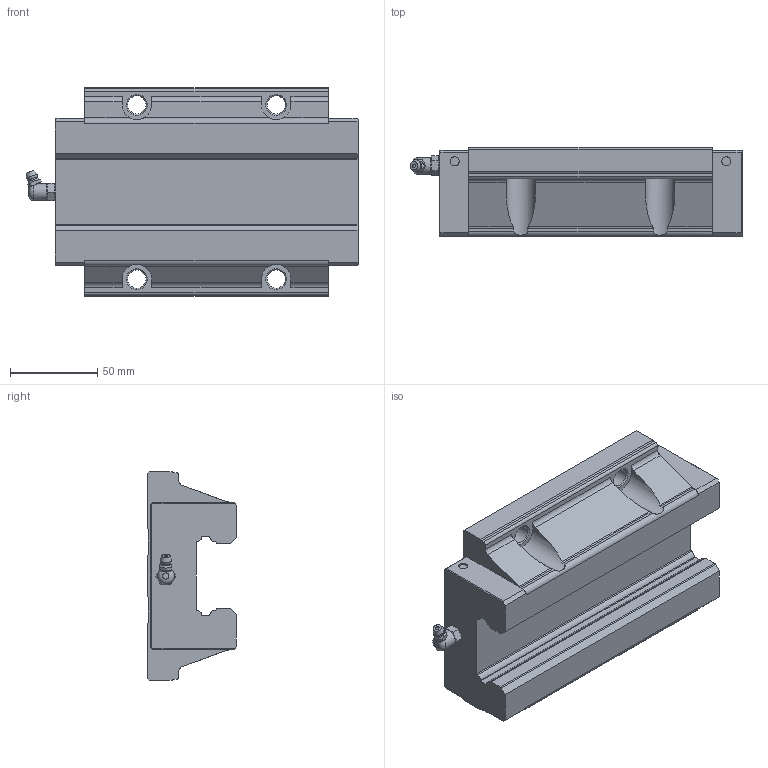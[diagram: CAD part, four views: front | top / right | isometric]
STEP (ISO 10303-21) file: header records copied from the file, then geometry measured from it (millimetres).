
FILE_DESCRIPTION(/* description */ ('STEP AP214'),/* implementation_level */ '2;1');
FILE_NAME(/* name */ 'SHS45LC1SS(GK) BLOCK(B-PT1_81)',/* time_stamp */ '2023-05-26T08:32:24+02:00',/* author */ ('License CC BY-ND 4.0'),/* organization */ ('CADENAS'),/* preprocessor_version */ 'ST-DEVELOPER v19.3',/* originating_system */ 'PARTsolutions',/* authorisation */ ' ');
FILE_SCHEMA (('AUTOMOTIVE_DESIGN {1 0 10303 214 3 1 1}'));
Length unit declared in the file: millimetre
Products named in the file (3): SHS45LC1SS(GK) BLOCK(B-PT1/81); B-PT1/8-SHS_grease_nipple_joint; SHS45LCSSB-PT1/81 Slide25-55
Assembly tree (2 placements, depth 2):
  SHS45LC1SS(GK) BLOCK(B-PT1/81)
    B-PT1/8-SHS_grease_nipple_joint
    SHS45LCSSB-PT1/81 Slide25-55
Bounding box: 190.7 x 51.1 x 120 mm (x, y, z)
Volume: 699358.4 mm3; surface area: 75277.2 mm2
Topology: 2 solids, 2 shells, 171 faces, 468 edges, 307 vertices
Faces by surface type: plane 99, cylinder 47, cone 20, torus 3, sphere 2
Full cylindrical faces by diameter (mm): 5.2 x4, 9.6 x1, 10.5 x4
Entity records: 5294 total; most frequent: CARTESIAN_POINT 1075, DIRECTION 848, ORIENTED_EDGE 834, EDGE_CURVE 417, AXIS2_PLACEMENT_3D 296, VERTEX_POINT 292, LINE 256, VECTOR 256
